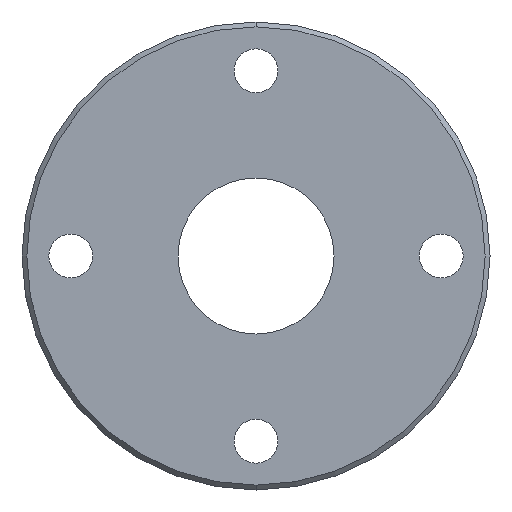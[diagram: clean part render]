
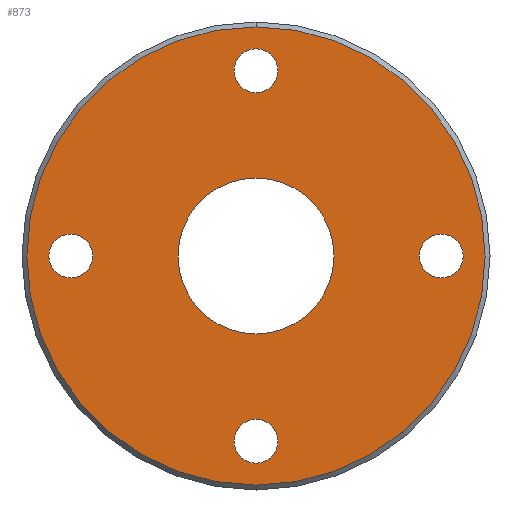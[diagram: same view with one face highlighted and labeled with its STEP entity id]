
A CAD part, front view. The second image highlights one B-rep face of the part: STEP entity #873.
In plain terms, the highlighted planar face has unit normal (0, -1, 0).
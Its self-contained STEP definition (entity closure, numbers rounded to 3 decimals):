
#20 = CARTESIAN_POINT ( 'NONE',  ( 19., 0., 0. ) ) ;
#21 = DIRECTION ( 'NONE',  ( 0., 0., 1. ) ) ;
#33 = PLANE ( 'NONE',  #353 ) ;
#34 = DIRECTION ( 'NONE',  ( 0., 0., 1. ) ) ;
#42 = VERTEX_POINT ( 'NONE', #799 ) ;
#48 = DIRECTION ( 'NONE',  ( 0., -1., 0. ) ) ;
#49 = AXIS2_PLACEMENT_3D ( 'NONE', #343, #765, #34 ) ;
#55 = EDGE_LOOP ( 'NONE', ( #704, #773 ) ) ;
#61 = VERTEX_POINT ( 'NONE', #479 ) ;
#66 = ORIENTED_EDGE ( 'NONE', *, *, #374, .T. ) ;
#78 = EDGE_LOOP ( 'NONE', ( #811, #284 ) ) ;
#81 = EDGE_CURVE ( 'NONE', #700, #131, #143, .T. ) ;
#89 = DIRECTION ( 'NONE',  ( 0., -1., 0. ) ) ;
#96 = CIRCLE ( 'NONE', #276, 8. ) ;
#101 = FACE_BOUND ( 'NONE', #78, .T. ) ;
#128 = ORIENTED_EDGE ( 'NONE', *, *, #439, .T. ) ;
#129 = DIRECTION ( 'NONE',  ( 0., 0., 1. ) ) ;
#130 = CIRCLE ( 'NONE', #49, 2.25 ) ;
#131 = VERTEX_POINT ( 'NONE', #597 ) ;
#137 = AXIS2_PLACEMENT_3D ( 'NONE', #814, #89, #850 ) ;
#143 = CIRCLE ( 'NONE', #753, 23.5 ) ;
#145 = EDGE_LOOP ( 'NONE', ( #616, #660 ) ) ;
#180 = EDGE_CURVE ( 'NONE', #839, #793, #96, .T. ) ;
#181 = CIRCLE ( 'NONE', #404, 2.25 ) ;
#193 = DIRECTION ( 'NONE',  ( 0., 0., -1. ) ) ;
#198 = CIRCLE ( 'NONE', #796, 2.25 ) ;
#205 = DIRECTION ( 'NONE',  ( 0., 0., 1. ) ) ;
#234 = DIRECTION ( 'NONE',  ( 0., 1., 0. ) ) ;
#254 = CIRCLE ( 'NONE', #495, 2.25 ) ;
#261 = DIRECTION ( 'NONE',  ( 1., 0., 0. ) ) ;
#276 = AXIS2_PLACEMENT_3D ( 'NONE', #602, #923, #193 ) ;
#284 = ORIENTED_EDGE ( 'NONE', *, *, #419, .T. ) ;
#294 = CARTESIAN_POINT ( 'NONE',  ( 0., 0., 19. ) ) ;
#297 = VERTEX_POINT ( 'NONE', #991 ) ;
#306 = DIRECTION ( 'NONE',  ( 0., 1., 0. ) ) ;
#317 = EDGE_LOOP ( 'NONE', ( #128, #66 ) ) ;
#331 = CARTESIAN_POINT ( 'NONE',  ( -19., 0., 2.25 ) ) ;
#336 = AXIS2_PLACEMENT_3D ( 'NONE', #391, #957, #21 ) ;
#340 = FACE_BOUND ( 'NONE', #537, .T. ) ;
#341 = FACE_BOUND ( 'NONE', #1008, .T. ) ;
#342 = EDGE_CURVE ( 'NONE', #297, #544, #794, .T. ) ;
#343 = CARTESIAN_POINT ( 'NONE',  ( 0., 0., -19. ) ) ;
#351 = CARTESIAN_POINT ( 'NONE',  ( 0., 0., 0. ) ) ;
#353 = AXIS2_PLACEMENT_3D ( 'NONE', #351, #920, #261 ) ;
#356 = CIRCLE ( 'NONE', #1036, 2.25 ) ;
#373 = CARTESIAN_POINT ( 'NONE',  ( 0., 0., 0. ) ) ;
#374 = EDGE_CURVE ( 'NONE', #42, #798, #130, .T. ) ;
#384 = CARTESIAN_POINT ( 'NONE',  ( -19., 0., 0. ) ) ;
#391 = CARTESIAN_POINT ( 'NONE',  ( 0., 0., 19. ) ) ;
#404 = AXIS2_PLACEMENT_3D ( 'NONE', #760, #842, #681 ) ;
#419 = EDGE_CURVE ( 'NONE', #691, #719, #588, .T. ) ;
#420 = FACE_BOUND ( 'NONE', #55, .T. ) ;
#429 = DIRECTION ( 'NONE',  ( 0., 0., 1. ) ) ;
#431 = FACE_BOUND ( 'NONE', #317, .T. ) ;
#439 = EDGE_CURVE ( 'NONE', #798, #42, #181, .T. ) ;
#449 = CARTESIAN_POINT ( 'NONE',  ( 19., 0., 0. ) ) ;
#479 = CARTESIAN_POINT ( 'NONE',  ( 19., 0., 2.25 ) ) ;
#481 = CARTESIAN_POINT ( 'NONE',  ( 0., 0., -16.75 ) ) ;
#495 = AXIS2_PLACEMENT_3D ( 'NONE', #449, #617, #205 ) ;
#499 = CARTESIAN_POINT ( 'NONE',  ( 0., 0., -23.5 ) ) ;
#511 = CARTESIAN_POINT ( 'NONE',  ( 0., 0., -8. ) ) ;
#537 = EDGE_LOOP ( 'NONE', ( #630, #644 ) ) ;
#543 = ORIENTED_EDGE ( 'NONE', *, *, #797, .T. ) ;
#544 = VERTEX_POINT ( 'NONE', #1040 ) ;
#564 = DIRECTION ( 'NONE',  ( 0., 0., 1. ) ) ;
#568 = EDGE_CURVE ( 'NONE', #719, #691, #683, .T. ) ;
#572 = CARTESIAN_POINT ( 'NONE',  ( -19., 0., -2.25 ) ) ;
#577 = EDGE_CURVE ( 'NONE', #544, #297, #356, .T. ) ;
#582 = CARTESIAN_POINT ( 'NONE',  ( 0., 0., 0. ) ) ;
#588 = CIRCLE ( 'NONE', #856, 2.25 ) ;
#594 = CARTESIAN_POINT ( 'NONE',  ( -19., 0., 0. ) ) ;
#597 = CARTESIAN_POINT ( 'NONE',  ( 0., 0., 23.5 ) ) ;
#599 = FACE_OUTER_BOUND ( 'NONE', #145, .T. ) ;
#602 = CARTESIAN_POINT ( 'NONE',  ( 0., 0., 0. ) ) ;
#616 = ORIENTED_EDGE ( 'NONE', *, *, #985, .T. ) ;
#617 = DIRECTION ( 'NONE',  ( 0., 1., 0. ) ) ;
#630 = ORIENTED_EDGE ( 'NONE', *, *, #342, .T. ) ;
#631 = EDGE_CURVE ( 'NONE', #793, #839, #678, .T. ) ;
#639 = DIRECTION ( 'NONE',  ( 0., 0., -1. ) ) ;
#644 = ORIENTED_EDGE ( 'NONE', *, *, #577, .T. ) ;
#645 = CARTESIAN_POINT ( 'NONE',  ( 19., 0., -2.25 ) ) ;
#648 = EDGE_CURVE ( 'NONE', #61, #779, #254, .T. ) ;
#653 = CIRCLE ( 'NONE', #137, 23.5 ) ;
#660 = ORIENTED_EDGE ( 'NONE', *, *, #81, .T. ) ;
#678 = CIRCLE ( 'NONE', #682, 8. ) ;
#681 = DIRECTION ( 'NONE',  ( 0., 0., 1. ) ) ;
#682 = AXIS2_PLACEMENT_3D ( 'NONE', #373, #48, #639 ) ;
#683 = CIRCLE ( 'NONE', #818, 2.25 ) ;
#691 = VERTEX_POINT ( 'NONE', #572 ) ;
#700 = VERTEX_POINT ( 'NONE', #499 ) ;
#704 = ORIENTED_EDGE ( 'NONE', *, *, #180, .F. ) ;
#719 = VERTEX_POINT ( 'NONE', #331 ) ;
#725 = ORIENTED_EDGE ( 'NONE', *, *, #648, .T. ) ;
#742 = CARTESIAN_POINT ( 'NONE',  ( 0., 0., 8. ) ) ;
#753 = AXIS2_PLACEMENT_3D ( 'NONE', #582, #1001, #429 ) ;
#760 = CARTESIAN_POINT ( 'NONE',  ( 0., 0., -19. ) ) ;
#765 = DIRECTION ( 'NONE',  ( 0., 1., 0. ) ) ;
#773 = ORIENTED_EDGE ( 'NONE', *, *, #631, .F. ) ;
#779 = VERTEX_POINT ( 'NONE', #645 ) ;
#793 = VERTEX_POINT ( 'NONE', #742 ) ;
#794 = CIRCLE ( 'NONE', #336, 2.25 ) ;
#796 = AXIS2_PLACEMENT_3D ( 'NONE', #20, #234, #564 ) ;
#797 = EDGE_CURVE ( 'NONE', #779, #61, #198, .T. ) ;
#798 = VERTEX_POINT ( 'NONE', #481 ) ;
#799 = CARTESIAN_POINT ( 'NONE',  ( 0., 0., -21.25 ) ) ;
#811 = ORIENTED_EDGE ( 'NONE', *, *, #568, .T. ) ;
#814 = CARTESIAN_POINT ( 'NONE',  ( 0., 0., 0. ) ) ;
#818 = AXIS2_PLACEMENT_3D ( 'NONE', #384, #860, #129 ) ;
#839 = VERTEX_POINT ( 'NONE', #511 ) ;
#840 = DIRECTION ( 'NONE',  ( 0., 0., 1. ) ) ;
#842 = DIRECTION ( 'NONE',  ( 0., 1., 0. ) ) ;
#850 = DIRECTION ( 'NONE',  ( 0., 0., 1. ) ) ;
#856 = AXIS2_PLACEMENT_3D ( 'NONE', #594, #921, #840 ) ;
#860 = DIRECTION ( 'NONE',  ( 0., 1., 0. ) ) ;
#873 = ADVANCED_FACE ( 'NONE', ( #420, #101, #340, #341, #431, #599 ), #33, .F. ) ;
#920 = DIRECTION ( 'NONE',  ( 0., 1., 0. ) ) ;
#921 = DIRECTION ( 'NONE',  ( 0., 1., 0. ) ) ;
#923 = DIRECTION ( 'NONE',  ( 0., -1., 0. ) ) ;
#957 = DIRECTION ( 'NONE',  ( 0., 1., 0. ) ) ;
#985 = EDGE_CURVE ( 'NONE', #131, #700, #653, .T. ) ;
#991 = CARTESIAN_POINT ( 'NONE',  ( 0., 0., 21.25 ) ) ;
#1001 = DIRECTION ( 'NONE',  ( 0., -1., 0. ) ) ;
#1008 = EDGE_LOOP ( 'NONE', ( #725, #543 ) ) ;
#1019 = DIRECTION ( 'NONE',  ( 0., 0., 1. ) ) ;
#1036 = AXIS2_PLACEMENT_3D ( 'NONE', #294, #306, #1019 ) ;
#1040 = CARTESIAN_POINT ( 'NONE',  ( 0., 0., 16.75 ) ) ;
